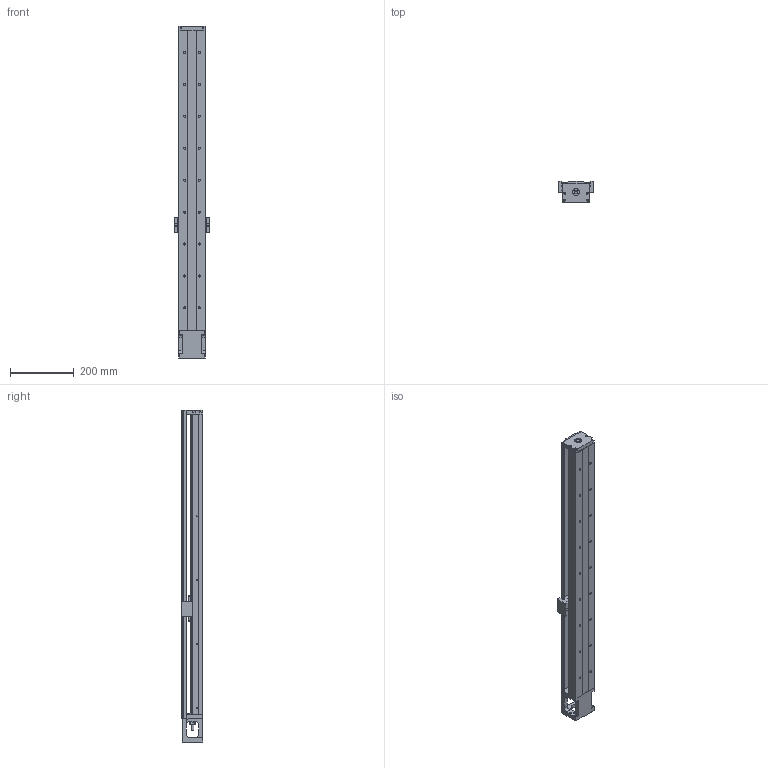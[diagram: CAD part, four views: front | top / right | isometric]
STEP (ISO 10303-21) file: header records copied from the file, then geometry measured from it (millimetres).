
FILE_DESCRIPTION(/* description */ (''),/* implementation_level */ '2;1');
FILE_NAME(/* name */ '46S-940C.stp',/* time_stamp */ '2016-12-20T14:10:55+08:00',/* author */ (''),/* organization */ (''),/* preprocessor_version */ 'ST-DEVELOPER v11',/* originating_system */ 'SIEMENS UGS NX 6.0',/* authorisation */ '');
FILE_SCHEMA (('AUTOMOTIVE_DESIGN { 1 0 10303 214 1 1 1 1 }'));
Length unit declared in the file: millimetre
Products named in the file (1): model4
Bounding box: 112 x 68 x 1040 mm (x, y, z)
Volume: 2494071.4 mm3; surface area: 631365.5 mm2
Topology: 7 solids, 18 shells, 734 faces, 1941 edges, 1282 vertices
Faces by surface type: plane 342, cylinder 272, cone 59, bspline 53, torus 8
Full cylindrical faces by diameter (mm): 2 x2, 2.11 x2, 2.15 x8, 2.42 x6, 2.5 x4, 3 x4, 3.2 x4, 3.3 x12, 3.4 x4, 4 x6, 4.2 x4, 4.5 x8, 5 x8, 6 x8, 6.35 x2, 6.6 x18, 6.7 x2, 8 x1, 8.7 x4, 9.6 x1, 10 x3, 11 x18, 12 x1, 14.95 x2, 15 x1, 16 x2, 22 x3, 27.5 x1, 44 x1, 50 x1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
Entity records: 32957 total; most frequent: CARTESIAN_POINT 13454, ORIENTED_EDGE 3334, DIRECTION 3222, EDGE_CURVE 1667, AXIS2_PLACEMENT_3D 1201, VERTEX_POINT 1200, EDGE_LOOP 1045, LINE 820
